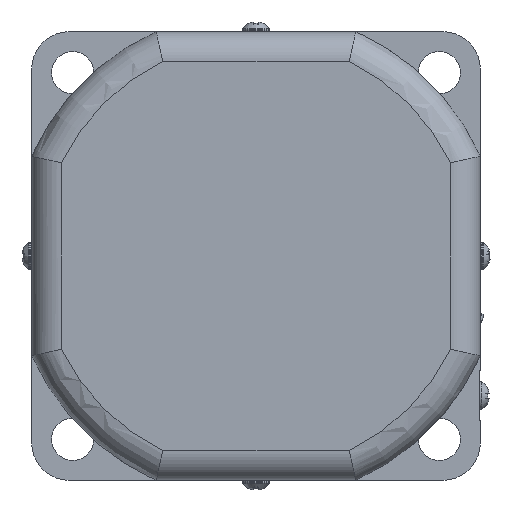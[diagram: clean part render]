
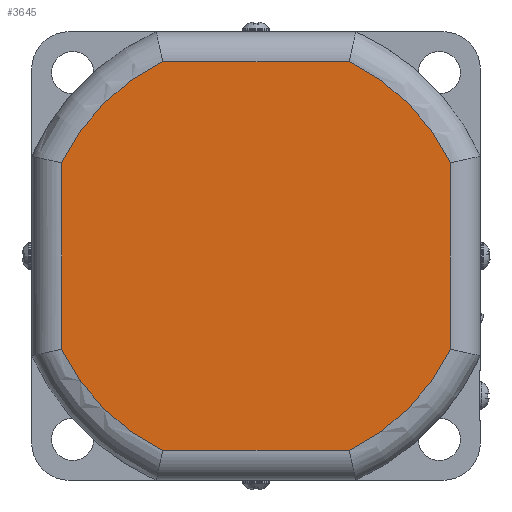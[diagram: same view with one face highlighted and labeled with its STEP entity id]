
A CAD part, left-side view. The second image highlights one B-rep face of the part: STEP entity #3645.
In plain terms, the highlighted planar face has unit normal (-1, 0, 0) as drawn and (0, 0, -1) by its records, which use the part's own axes.
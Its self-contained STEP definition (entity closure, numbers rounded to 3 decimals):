
#392=LINE('',#6432,#675);
#395=LINE('',#6452,#678);
#396=LINE('',#6505,#679);
#397=LINE('',#6522,#680);
#675=VECTOR('',#4863,37.393);
#678=VECTOR('',#4868,37.393);
#679=VECTOR('',#4883,37.393);
#680=VECTOR('',#4886,37.393);
#965=FACE_OUTER_BOUND('',#1204,.T.);
#1204=EDGE_LOOP('',(#3011,#3012,#3013,#3014,#3015,#3016,#3017,#3018));
#1376=CIRCLE('',#4061,43.25);
#1377=CIRCLE('',#4065,43.25);
#1380=CIRCLE('',#4069,43.25);
#1381=CIRCLE('',#4073,43.25);
#1658=VERTEX_POINT('',#6382);
#1660=VERTEX_POINT('',#6399);
#1662=VERTEX_POINT('',#6417);
#1664=VERTEX_POINT('',#6436);
#1665=VERTEX_POINT('',#6454);
#1666=VERTEX_POINT('',#6472);
#1667=VERTEX_POINT('',#6490);
#1668=VERTEX_POINT('',#6507);
#2120=EDGE_CURVE('',#1660,#1658,#1376,.T.);
#2122=EDGE_CURVE('',#1662,#1660,#392,.T.);
#2126=EDGE_CURVE('',#1658,#1664,#395,.T.);
#2128=EDGE_CURVE('',#1665,#1662,#1377,.T.);
#2132=EDGE_CURVE('',#1664,#1666,#1380,.T.);
#2134=EDGE_CURVE('',#1667,#1665,#396,.T.);
#2136=EDGE_CURVE('',#1666,#1668,#397,.T.);
#2137=EDGE_CURVE('',#1668,#1667,#1381,.T.);
#3011=ORIENTED_EDGE('',*,*,#2136,.F.);
#3012=ORIENTED_EDGE('',*,*,#2132,.F.);
#3013=ORIENTED_EDGE('',*,*,#2126,.F.);
#3014=ORIENTED_EDGE('',*,*,#2120,.F.);
#3015=ORIENTED_EDGE('',*,*,#2122,.F.);
#3016=ORIENTED_EDGE('',*,*,#2128,.F.);
#3017=ORIENTED_EDGE('',*,*,#2134,.F.);
#3018=ORIENTED_EDGE('',*,*,#2137,.F.);
#3453=PLANE('',#4075);
#3645=ADVANCED_FACE('',(#965),#3453,.F.);
#4061=AXIS2_PLACEMENT_3D('',#6414,#4859,#4860);
#4065=AXIS2_PLACEMENT_3D('',#6469,#4871,#4872);
#4069=AXIS2_PLACEMENT_3D('',#6488,#4879,#4880);
#4073=AXIS2_PLACEMENT_3D('',#6524,#4889,#4890);
#4075=AXIS2_PLACEMENT_3D('',#6526,#4893,#4894);
#4859=DIRECTION('center_axis',(0.,0.,1.));
#4860=DIRECTION('ref_axis',(0.707,-0.707,0.));
#4863=DIRECTION('',(1.,0.,0.));
#4868=DIRECTION('',(0.,1.,0.));
#4871=DIRECTION('center_axis',(0.,0.,1.));
#4872=DIRECTION('ref_axis',(-0.707,-0.707,0.));
#4879=DIRECTION('center_axis',(0.,0.,1.));
#4880=DIRECTION('ref_axis',(0.707,0.707,0.));
#4883=DIRECTION('',(0.,-1.,0.));
#4886=DIRECTION('',(-1.,0.,0.));
#4889=DIRECTION('center_axis',(0.,0.,1.));
#4890=DIRECTION('ref_axis',(-0.707,0.707,0.));
#4893=DIRECTION('center_axis',(0.,0.,1.));
#4894=DIRECTION('ref_axis',(1.,0.,0.));
#6382=CARTESIAN_POINT('',(39.,-18.697,0.));
#6399=CARTESIAN_POINT('',(18.697,-39.,0.));
#6414=CARTESIAN_POINT('Origin',(0.,0.,0.));
#6417=CARTESIAN_POINT('',(-18.697,-39.,0.));
#6432=CARTESIAN_POINT('',(-18.697,-39.,0.));
#6436=CARTESIAN_POINT('',(39.,18.697,0.));
#6452=CARTESIAN_POINT('',(39.,-18.697,0.));
#6454=CARTESIAN_POINT('',(-39.,-18.697,0.));
#6469=CARTESIAN_POINT('Origin',(0.,0.,0.));
#6472=CARTESIAN_POINT('',(18.697,39.,0.));
#6488=CARTESIAN_POINT('Origin',(0.,0.,0.));
#6490=CARTESIAN_POINT('',(-39.,18.697,0.));
#6505=CARTESIAN_POINT('',(-39.,18.697,0.));
#6507=CARTESIAN_POINT('',(-18.697,39.,0.));
#6522=CARTESIAN_POINT('',(18.697,39.,0.));
#6524=CARTESIAN_POINT('Origin',(0.,0.,0.));
#6526=CARTESIAN_POINT('Origin',(0.,0.,0.));
